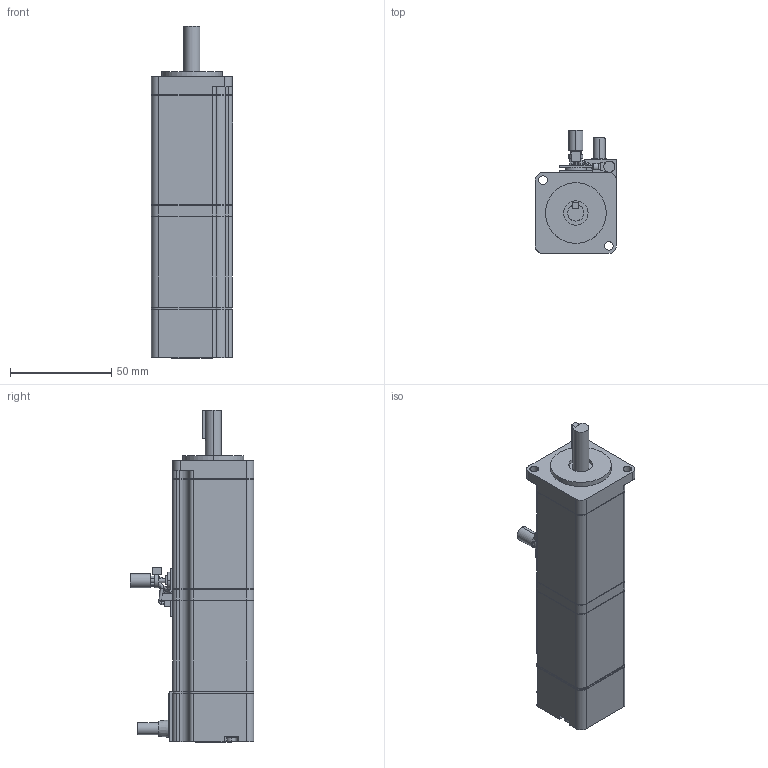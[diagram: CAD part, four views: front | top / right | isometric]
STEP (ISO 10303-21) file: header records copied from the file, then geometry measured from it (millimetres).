
FILE_DESCRIPTION (( 'STEP AP203' ), '1' );
FILE_NAME ('sjme_01amb4c.STEP', '2011-11-08T23:38:03', ( '匠エンジニアリング山之内' ), ( 'TAKUMI-Engniaring' ), 'SwSTEP 2.0', 'SolidWorks 2006303', '' );
FILE_SCHEMA (( 'CONFIG_CONTROL_DESIGN' ));
Length unit declared in the file: millimetre
Products named in the file (3): sjme_01amb4c_base; sjme_01amb4c_key; sjme_01amb4c
Assembly tree (2 placements, depth 2):
  sjme_01amb4c
    sjme_01amb4c_key
    sjme_01amb4c_base
Bounding box: 40.1 x 61.1 x 164.1 mm (x, y, z)
Volume: 210601.5 mm3; surface area: 27463 mm2
Topology: 2 solids, 2 shells, 370 faces, 1014 edges, 669 vertices
Faces by surface type: plane 196, cylinder 137, bspline 27, torus 8, cone 2
Entity records: 12817 total; most frequent: CARTESIAN_POINT 3026, ORIENTED_EDGE 2028, DIRECTION 1952, EDGE_CURVE 1014, VERTEX_POINT 669, AXIS2_PLACEMENT_3D 660, VECTOR 632, LINE 632
